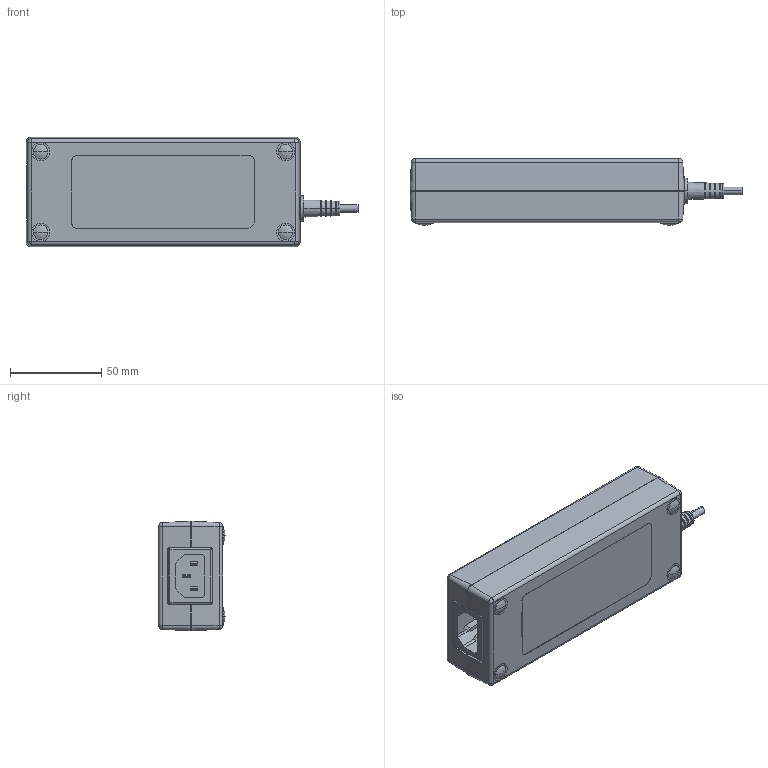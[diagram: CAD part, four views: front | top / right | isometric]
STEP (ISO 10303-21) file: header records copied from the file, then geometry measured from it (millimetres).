
FILE_DESCRIPTION((''),'2;1');
FILE_NAME('0_MDS-090AAS_ASM','2016-12-30T',('TERRY.LIN'),(''),'PRO/ENGINEER BY PARAMETRIC TECHNOLOGY CORPORATION, 2010280','PRO/ENGINEER BY PARAMETRIC TECHNOLOGY CORPORATION, 2010280','');
FILE_SCHEMA(('CONFIG_CONTROL_DESIGN'));
Length unit declared in the file: millimetre
Products named in the file (10): 0_MDS-090AAS_SKEL; 330M0556PA_CASE-COVER; 330M0557PA_CASE-CHASSIS; CASE-SR_60-ROUND; 32450051_BUMPER-RUBBBER; 1_CASE-ASSY_ASM; 90AAS_MAIN-BOARD; 30304119_C14-SOCKET; 2_PWB-ASSY_ASM; 0_MDS-090AAS_ASM
Assembly tree (12 placements, depth 3):
  0_MDS-090AAS_ASM
    0_MDS-090AAS_SKEL
    1_CASE-ASSY_ASM
      330M0556PA_CASE-COVER
      330M0557PA_CASE-CHASSIS
      CASE-SR_60-ROUND
      32450051_BUMPER-RUBBBER  x4
    2_PWB-ASSY_ASM
      90AAS_MAIN-BOARD
      30304119_C14-SOCKET
Bounding box: 181.6 x 36.5 x 60 mm (x, y, z)
Volume: 84449.2 mm3; surface area: 87798.5 mm2
Topology: 9 solids, 9 shells, 857 faces, 2284 edges, 1484 vertices
Faces by surface type: plane 562, cylinder 229, cone 30, torus 16, sphere 12, bspline 8
Entity records: 26783 total; most frequent: CARTESIAN_POINT 5166, ORIENTED_EDGE 4496, DIRECTION 4462, EDGE_CURVE 2248, VECTOR 1512, LINE 1512, AXIS2_PLACEMENT_3D 1475, VERTEX_POINT 1469
